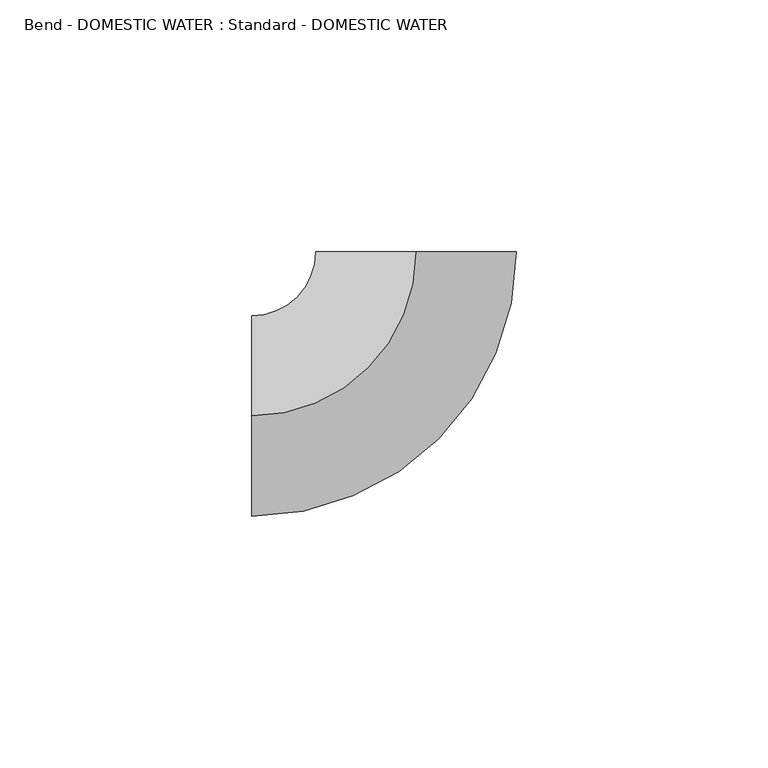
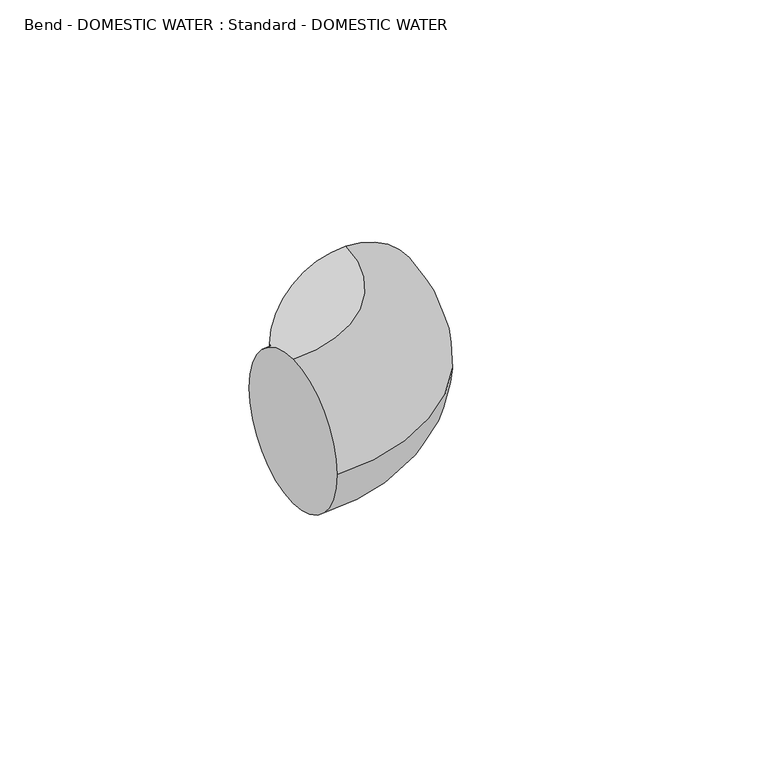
"""IFC4 building model written with IfcOpenShell, lengths in millimetres: pipe fitting geometry, Bend - DOMESTIC WATER : Standard - DOMESTIC WATER."""

import ifcopenshell
import ifcopenshell.guid

model = None  # the IFC model being written
_history = None  # IfcOwnerHistory: only IFC2X3 demands one
_inside = {}  # id of a spatial element -> (the spatial element, [elements in it])
_under = {}  # id of a project, library or spatial element -> (it, [spatial elements below it])
_declared = {}  # id of a project -> (the project, [libraries it declares])
_typed = {}  # id of a type object -> (the type object, [elements of that type])
_made_of = {}  # id of a material, layer set ... -> (it, [elements and type objects made of it])


def new_model(schema):
    """Start an empty IFC model of exactly this schema.

    Asked for "IFC4X3", IfcOpenShell would pick the latest addendum, in which some entities
    have other attributes; the version numbers below select the first issue.
    IFC2X3 requires an IfcOwnerHistory on every rooted entity: one is made here for all.
    """
    global model, _history
    if schema == "IFC4X3":
        model = ifcopenshell.file(schema_version=(4, 3, 0, 0))
    else:
        model = ifcopenshell.file(schema=schema)
    _inside.clear()
    _under.clear()
    _declared.clear()
    _typed.clear()
    _made_of.clear()
    _history = None
    if model.schema == "IFC2X3":
        org = make("IfcOrganization", Name="unknown")
        user = make(
            "IfcPersonAndOrganization",
            ThePerson=make("IfcPerson", FamilyName="unknown"),
            TheOrganization=org,
        )
        app = make(
            "IfcApplication",
            ApplicationDeveloper=org,
            Version="unknown",
            ApplicationFullName="unknown",
            ApplicationIdentifier="unknown",
        )
        _history = make(
            "IfcOwnerHistory",
            OwningUser=user,
            OwningApplication=app,
            ChangeAction="ADDED",
            CreationDate=0,
        )
    return model


def make(cls, **values):
    """One entity of the class cls with the attributes given. An attribute that is None is left unset."""
    return model.create_entity(
        cls, **{name: value for name, value in values.items() if value is not None}
    )


def rooted(cls, **values):
    """An entity with a GlobalId (a new one), such as an element, a storey or a relation."""
    return make(cls, GlobalId=ifcopenshell.guid.new(), OwnerHistory=_history, **values)


def si_unit(unit_type, name, prefix=None):
    """IfcSIUnit, for example si_unit("LENGTHUNIT", "METRE", prefix="MILLI")."""
    return make("IfcSIUnit", UnitType=unit_type, Prefix=prefix, Name=name)


def assignment(units):
    """IfcUnitAssignment: the units of a project."""
    return None if units is None else make("IfcUnitAssignment", Units=units)


def point(xyz):
    """IfcCartesianPoint."""
    return None if xyz is None else make("IfcCartesianPoint", Coordinates=xyz)


def direction(xyz):
    """IfcDirection."""
    return None if xyz is None else make("IfcDirection", DirectionRatios=xyz)


def frame(location, z_axis=None, x_axis=None):
    """IfcAxis2Placement3D, a coordinate frame: its origin and axes. An axis left out is left unset."""
    return make(
        "IfcAxis2Placement3D",
        Location=point(location),
        Axis=direction(z_axis),
        RefDirection=direction(x_axis),
    )


def origin():
    """The frame at (0, 0, 0) with its axes left unset."""
    return frame((0.0, 0.0, 0.0))


def place(relative_to, where):
    """IfcLocalPlacement: puts the frame where relative to a parent placement (None: the world)."""
    return make(
        "IfcLocalPlacement", PlacementRelTo=relative_to, RelativePlacement=where
    )


def context(
    kind, dimensions, precision=None, world=None, true_north=None, identifier=None
):
    """IfcGeometricRepresentationContext, for example the 3D "Model" context."""
    return make(
        "IfcGeometricRepresentationContext",
        ContextIdentifier=identifier,
        ContextType=kind,
        CoordinateSpaceDimension=dimensions,
        Precision=precision,
        WorldCoordinateSystem=world,
        TrueNorth=true_north,
    )


def project(units=None, contexts=None):
    """IfcProject with its units and contexts."""
    return rooted(
        "IfcProject",
        Name="project",
        RepresentationContexts=contexts,
        UnitsInContext=assignment(units),
    )


def spatial(cls, under=None, at=None, **own):
    """A site, building, storey or space (cls), placed at a placement, below another one or the project."""
    s = rooted(cls, ObjectPlacement=at, **own)
    if under is not None:
        _under.setdefault(under.id(), (under, []))[1].append(s)
    return s


def circle_curve(where, radius):
    """IfcCircle in the frame where."""
    return make("IfcCircle", Position=where, Radius=radius)


def ellipse_curve(where, semi_axis1, semi_axis2):
    """IfcEllipse in the frame where."""
    return make(
        "IfcEllipse", Position=where, SemiAxis1=semi_axis1, SemiAxis2=semi_axis2
    )


def trimmed(basis, trim1, trim2, sense, master):
    """IfcTrimmedCurve: the piece of a basis curve between two trims."""
    return make(
        "IfcTrimmedCurve",
        BasisCurve=basis,
        Trim1=trim1,
        Trim2=trim2,
        SenseAgreement=sense,
        MasterRepresentation=master,
    )


def shape(context_of_items, identifier, shape_type, items):
    """IfcShapeRepresentation: the items that make up one representation, for example the "Body"."""
    return make(
        "IfcShapeRepresentation",
        ContextOfItems=context_of_items,
        RepresentationIdentifier=identifier,
        RepresentationType=shape_type,
        Items=items,
    )


def source(mapping_origin, context_of_items, identifier, shape_type, items):
    """IfcRepresentationMap: a shape defined once, which mapped items show again and again."""
    return make(
        "IfcRepresentationMap",
        MappingOrigin=mapping_origin,
        MappedRepresentation=shape(context_of_items, identifier, shape_type, items),
    )


def transform(
    local_origin,
    x_axis=None,
    y_axis=None,
    z_axis=None,
    scale=None,
    scale2=None,
    scale3=None,
    uniform=True,
):
    """IfcCartesianTransformationOperator3D, or its non-uniform kind. x_axis, y_axis, z_axis: its Axis1, 2, 3."""
    if uniform:
        return make(
            "IfcCartesianTransformationOperator3D",
            Axis1=direction(x_axis),
            Axis2=direction(y_axis),
            LocalOrigin=point(local_origin),
            Scale=scale,
            Axis3=direction(z_axis),
        )
    return make(
        "IfcCartesianTransformationOperator3DnonUniform",
        Axis1=direction(x_axis),
        Axis2=direction(y_axis),
        LocalOrigin=point(local_origin),
        Scale=scale,
        Axis3=direction(z_axis),
        Scale2=scale2,
        Scale3=scale3,
    )


def mapped(mapping_source, mapping_target):
    """IfcMappedItem: shows the shape of a source again, moved by a transform."""
    return make(
        "IfcMappedItem", MappingSource=mapping_source, MappingTarget=mapping_target
    )


def made_of(thing, what):
    """Note that an element or type object is made of a material, layer set ...; save() writes the relation."""
    if what is not None:
        _made_of.setdefault(what.id(), (what, []))[1].append(thing)
    return thing


def element(
    cls,
    number,
    at=None,
    inside=None,
    cuts=None,
    type_object=None,
    material=None,
    context=None,
    identifier="Body",
    shape_type=None,
    held_by="IfcProductDefinitionShape",
    body=None,
    shapes=None,
    **own,
):
    """One element of the class cls, such as IfcWall. Its Tag is "e" and its number.

    at: its placement. inside: the storey or other place that contains it. cuts: it is an
    opening in that element (IfcRelVoidsElement). A single representation is given by context,
    identifier, shape_type and body (its items); several are given by shapes. held_by: the class
    of the entity that holds the representations. save() writes the other relations.
    """
    e = rooted(cls, Tag="e%d" % number, ObjectPlacement=at, **own)
    if body is not None:
        shapes = [shape(context, identifier, shape_type, body)]
    if shapes is not None:
        e.Representation = make(held_by, Representations=shapes)
    if inside is not None:
        _inside.setdefault(inside.id(), (inside, []))[1].append(e)
    if cuts is not None:
        rooted(
            "IfcRelVoidsElement", RelatingBuildingElement=cuts, RelatedOpeningElement=e
        )
    if type_object is not None:
        _typed.setdefault(type_object.id(), (type_object, []))[1].append(e)
    return made_of(e, material)


def aggregate(whole, parts):
    """IfcRelAggregates: a whole, such as a stair, and the parts it consists of."""
    return rooted("IfcRelAggregates", RelatingObject=whole, RelatedObjects=parts)


def save(model, path):
    """Write the relations noted so far, then the file.

    IfcRelAggregates (storeys below a building ...), IfcRelContainedInSpatialStructure (elements
    in a storey), IfcRelDefinesByType, IfcRelAssociatesMaterial and IfcRelDeclares: one each for
    every whole, place, type object, material and project.
    """
    for whole, parts in _under.values():
        aggregate(whole, parts)
    for where, things in _inside.values():
        rooted(
            "IfcRelContainedInSpatialStructure",
            RelatedElements=things,
            RelatingStructure=where,
        )
    for kind, things in _typed.values():
        rooted("IfcRelDefinesByType", RelatedObjects=things, RelatingType=kind)
    for what, things in _made_of.values():
        rooted("IfcRelAssociatesMaterial", RelatedObjects=things, RelatingMaterial=what)
    for by, libraries in _declared.values():
        rooted("IfcRelDeclares", RelatingContext=by, RelatedDefinitions=libraries)
    model.write(path)


def plane_surface(at):
    """IfcPlane: the flat surface through the origin of the frame at, square to its z axis."""
    return make("IfcPlane", Position=at)


def revolved_surface(curve, axis_point, axis_direction):
    """IfcSurfaceOfRevolution: the curve turned about the line through axis_point along axis_direction."""
    return make(
        "IfcSurfaceOfRevolution",
        SweptCurve=make("IfcArbitraryOpenProfileDef", ProfileType="CURVE", Curve=curve),
        AxisPosition=make("IfcAxis1Placement", Location=point(axis_point), Axis=direction(axis_direction)),
    )


def advanced_brep(points, edges, surfaces, faces):
    """IfcAdvancedBrep: a solid bounded by faces that lie on surfaces and meet in shared edges.

    An edge is (start, end): straight between two places in points (the first is 0);
    or (start, end, curve); or (start, end, curve, False) where it runs against its curve.
    A face is (place in surfaces, loops), or (place, loops, False) where it looks against
    its surface's normal. A loop lists edges by number (the first is 1), with a minus sign
    where the edge is run from its end to its start. The first loop is the outer one.
    """
    corners = [point(p) for p in points]
    vertices = [make("IfcVertexPoint", VertexGeometry=c) for c in corners]
    made = []
    for start, end, *more in edges:
        made.append(
            make(
                "IfcEdgeCurve",
                EdgeStart=vertices[start],
                EdgeEnd=vertices[end],
                EdgeGeometry=more[0] if more else make("IfcPolyline", Points=[corners[start], corners[end]]),
                SameSense=more[1] if len(more) > 1 else True,
            )
        )
    hull = []
    for where, loops, *sense in faces:
        bounds = []
        for j, loop in enumerate(loops):
            ring = [make("IfcOrientedEdge", EdgeElement=made[abs(k) - 1], Orientation=k > 0) for k in loop]
            bounds.append(
                make(
                    "IfcFaceOuterBound" if j == 0 else "IfcFaceBound",
                    Bound=make("IfcEdgeLoop", EdgeList=ring),
                    Orientation=True,
                )
            )
        hull.append(make("IfcAdvancedFace", Bounds=bounds, FaceSurface=surfaces[where], SameSense=sense[0] if sense else True))
    return make("IfcAdvancedBrep", Outer=make("IfcClosedShell", CfsFaces=hull))


def bend_domestic_water_standard_domestic_water_16d314a5(model_context):
    return source(origin(), model_context, "Body", "AdvancedBrep", [
        advanced_brep(
        [(-32.5755, 0.0, 19.8755), (-32.5755, 19.8755, 0.0), (-32.5755, 0.0, -19.8755), (-32.5755, -19.8755, 0.0), (0.0, 32.5755, 19.8755), (19.8755, 32.5755, 0.0), (0.0, 32.5755, -19.8755), (-19.8755, 32.5755, 0.0)],
        [
            (0, 1, circle_curve(frame((-32.5755, 0.0, 0.0), z_axis=(-1.0, 0.0, 0.0), x_axis=(0.0, 1.0, 0.0)), 19.8755)),
            (1, 2, circle_curve(frame((-32.5755, 0.0, 0.0), z_axis=(-1.0, 0.0, 0.0), x_axis=(0.0, 1.0, 0.0)), 19.8755)),
            (2, 3, circle_curve(frame((-32.5755, 0.0, 0.0), z_axis=(-1.0, 0.0, 0.0), x_axis=(0.0, 1.0, 0.0)), 19.8755)),
            (3, 0, circle_curve(frame((-32.5755, 0.0, 0.0), z_axis=(-1.0, 0.0, 0.0), x_axis=(0.0, 1.0, 0.0)), 19.8755)),
            (4, 5, circle_curve(frame((0.0, 32.5755, 0.0), z_axis=(0.0, 1.0, 0.0), x_axis=(-1.0, 0.0, 0.0)), 19.8755)),
            (5, 6, circle_curve(frame((0.0, 32.5755, 0.0), z_axis=(0.0, 1.0, 0.0), x_axis=(-1.0, 0.0, 0.0)), 19.8755)),
            (6, 7, circle_curve(frame((0.0, 32.5755, 0.0), z_axis=(0.0, 1.0, 0.0), x_axis=(-1.0, 0.0, 0.0)), 19.8755)),
            (7, 4, circle_curve(frame((0.0, 32.5755, 0.0), z_axis=(0.0, 1.0, 0.0), x_axis=(-1.0, 0.0, 0.0)), 19.8755)),
            (7, 1, circle_curve(frame((-32.5755, 32.5755, 0.0), z_axis=(0.0, 0.0, -1.0), x_axis=(0.0, -1.0, 0.0)), 12.7)),
            (0, 4, circle_curve(frame((-32.5755, 32.5755, 19.8755), z_axis=(0.0, 0.0, 1.0), x_axis=(0.0, -1.0, 0.0)), 32.5755)),
            (6, 2, circle_curve(frame((-32.5755, 32.5755, -19.8755), z_axis=(0.0, 0.0, -1.0), x_axis=(0.0, -1.0, 0.0)), 32.5755)),
            (5, 3, circle_curve(frame((-32.5755, 32.5755, 0.0), z_axis=(0.0, 0.0, -1.0), x_axis=(0.0, -1.0, 0.0)), 52.451)),
        ],
        [
            plane_surface(frame((-32.5755, 0.0, 0.0), z_axis=(-1.0, 0.0, 0.0), x_axis=(0.0, 0.0, 1.0))),
            plane_surface(frame((0.0, 32.5755, 0.0), z_axis=(0.0, 1.0, 0.0), x_axis=(0.0, 0.0, 1.0))),
            revolved_surface(trimmed(ellipse_curve(frame((-32.5755, 0.0, 0.0), z_axis=(-1.0, 0.0, 0.0), x_axis=(0.0, 1.0, 0.0)), 19.8755, 19.8755), [point((-32.5755, 0.0, 19.8755))], [point((-32.5755, 19.8755, 0.0))], True, "CARTESIAN"), (-32.5755, 32.5755, 0.0), (0.0, 0.0, 1.0)),
            revolved_surface(trimmed(ellipse_curve(frame((-32.5755, 0.0, 0.0), z_axis=(-1.0, 0.0, 0.0), x_axis=(0.0, 1.0, 0.0)), 19.8755, 19.8755), [point((-32.5755, 19.8755, 0.0))], [point((-32.5755, 0.0, -19.8755))], True, "CARTESIAN"), (-32.5755, 32.5755, 0.0), (0.0, 0.0, 1.0)),
            revolved_surface(trimmed(ellipse_curve(frame((-32.5755, 0.0, 0.0), z_axis=(-1.0, 0.0, 0.0), x_axis=(0.0, 1.0, 0.0)), 19.8755, 19.8755), [point((-32.5755, 0.0, -19.8755))], [point((-32.5755, -19.8755, 0.0))], True, "CARTESIAN"), (-32.5755, 32.5755, 0.0), (0.0, 0.0, 1.0)),
            revolved_surface(trimmed(ellipse_curve(frame((-32.5755, 0.0, 0.0), z_axis=(-1.0, 0.0, 0.0), x_axis=(0.0, 1.0, 0.0)), 19.8755, 19.8755), [point((-32.5755, -19.8755, 0.0))], [point((-32.5755, 0.0, 19.8755))], True, "CARTESIAN"), (-32.5755, 32.5755, 0.0), (0.0, 0.0, 1.0)),
        ],
        [
            (0, [[1, 2, 3, 4]]),
            (1, [[5, 6, 7, 8]]),
            (2, [[9, -1, 10, -8]]),
            (3, [[11, -2, -9, -7]]),
            (4, [[12, -3, -11, -6]]),
            (5, [[-10, -4, -12, -5]]),
        ],
    ),
        advanced_brep(
        [(-32.5755, 0.0, 19.8755), (-32.5755, 19.8755, 0.0), (-32.5755, 0.0, -19.8755), (-32.5755, -19.8755, 0.0), (0.0, 32.5755, 19.8755), (19.8755, 32.5755, 0.0), (0.0, 32.5755, -19.8755), (-19.8755, 32.5755, 0.0)],
        [
            (0, 1, circle_curve(frame((-32.5755, 0.0, 0.0), z_axis=(-1.0, 0.0, 0.0), x_axis=(0.0, 1.0, 0.0)), 19.8755)),
            (1, 2, circle_curve(frame((-32.5755, 0.0, 0.0), z_axis=(-1.0, 0.0, 0.0), x_axis=(0.0, 1.0, 0.0)), 19.8755)),
            (2, 3, circle_curve(frame((-32.5755, 0.0, 0.0), z_axis=(-1.0, 0.0, 0.0), x_axis=(0.0, 1.0, 0.0)), 19.8755)),
            (3, 0, circle_curve(frame((-32.5755, 0.0, 0.0), z_axis=(-1.0, 0.0, 0.0), x_axis=(0.0, 1.0, 0.0)), 19.8755)),
            (4, 5, circle_curve(frame((0.0, 32.5755, 0.0), z_axis=(0.0, 1.0, 0.0), x_axis=(-1.0, 0.0, 0.0)), 19.8755)),
            (5, 6, circle_curve(frame((0.0, 32.5755, 0.0), z_axis=(0.0, 1.0, 0.0), x_axis=(-1.0, 0.0, 0.0)), 19.8755)),
            (6, 7, circle_curve(frame((0.0, 32.5755, 0.0), z_axis=(0.0, 1.0, 0.0), x_axis=(-1.0, 0.0, 0.0)), 19.8755)),
            (7, 4, circle_curve(frame((0.0, 32.5755, 0.0), z_axis=(0.0, 1.0, 0.0), x_axis=(-1.0, 0.0, 0.0)), 19.8755)),
            (7, 1, circle_curve(frame((-32.5755, 32.5755, 0.0), z_axis=(0.0, 0.0, -1.0), x_axis=(0.0, -1.0, 0.0)), 12.7)),
            (0, 4, circle_curve(frame((-32.5755, 32.5755, 19.8755), z_axis=(0.0, 0.0, 1.0), x_axis=(0.0, -1.0, 0.0)), 32.5755)),
            (6, 2, circle_curve(frame((-32.5755, 32.5755, -19.8755), z_axis=(0.0, 0.0, -1.0), x_axis=(0.0, -1.0, 0.0)), 32.5755)),
            (5, 3, circle_curve(frame((-32.5755, 32.5755, 0.0), z_axis=(0.0, 0.0, -1.0), x_axis=(0.0, -1.0, 0.0)), 52.451)),
        ],
        [
            plane_surface(frame((-32.5755, 0.0, 0.0), z_axis=(-1.0, 0.0, 0.0), x_axis=(0.0, 0.0, 1.0))),
            plane_surface(frame((0.0, 32.5755, 0.0), z_axis=(0.0, 1.0, 0.0), x_axis=(0.0, 0.0, 1.0))),
            revolved_surface(trimmed(ellipse_curve(frame((-32.5755, 0.0, 0.0), z_axis=(-1.0, 0.0, 0.0), x_axis=(0.0, 1.0, 0.0)), 19.8755, 19.8755), [point((-32.5755, 0.0, 19.8755))], [point((-32.5755, 19.8755, 0.0))], True, "CARTESIAN"), (-32.5755, 32.5755, 0.0), (0.0, 0.0, 1.0)),
            revolved_surface(trimmed(ellipse_curve(frame((-32.5755, 0.0, 0.0), z_axis=(-1.0, 0.0, 0.0), x_axis=(0.0, 1.0, 0.0)), 19.8755, 19.8755), [point((-32.5755, 19.8755, 0.0))], [point((-32.5755, 0.0, -19.8755))], True, "CARTESIAN"), (-32.5755, 32.5755, 0.0), (0.0, 0.0, 1.0)),
            revolved_surface(trimmed(ellipse_curve(frame((-32.5755, 0.0, 0.0), z_axis=(-1.0, 0.0, 0.0), x_axis=(0.0, 1.0, 0.0)), 19.8755, 19.8755), [point((-32.5755, 0.0, -19.8755))], [point((-32.5755, -19.8755, 0.0))], True, "CARTESIAN"), (-32.5755, 32.5755, 0.0), (0.0, 0.0, 1.0)),
            revolved_surface(trimmed(ellipse_curve(frame((-32.5755, 0.0, 0.0), z_axis=(-1.0, 0.0, 0.0), x_axis=(0.0, 1.0, 0.0)), 19.8755, 19.8755), [point((-32.5755, -19.8755, 0.0))], [point((-32.5755, 0.0, 19.8755))], True, "CARTESIAN"), (-32.5755, 32.5755, 0.0), (0.0, 0.0, 1.0)),
        ],
        [
            (0, [[1, 2, 3, 4]]),
            (1, [[5, 6, 7, 8]]),
            (2, [[9, -1, 10, -8]]),
            (3, [[11, -2, -9, -7]]),
            (4, [[12, -3, -11, -6]]),
            (5, [[-10, -4, -12, -5]]),
        ],
    ),
    ])


if __name__ == "__main__":
    model = new_model("IFC4")
    model_context = context("Model", 3, world=origin())
    ifc_project = project(units=[si_unit("LENGTHUNIT", "METRE", prefix="MILLI")], contexts=[model_context])
    site = spatial("IfcSite", under=ifc_project)
    building = spatial("IfcBuilding", under=site)
    placement = place(None, origin())
    bend_domestic_water_standard_domestic_water_shape = bend_domestic_water_standard_domestic_water_16d314a5(model_context)
    element("IfcPipeFitting", 1, ObjectType="Bend - DOMESTIC WATER : Standard - DOMESTIC WATER", at=placement, inside=building, context=model_context, shape_type="MappedRepresentation", body=[
        mapped(bend_domestic_water_standard_domestic_water_shape, transform((0.0, 0.0, 0.0), x_axis=(1.0, 0.0, 0.0), y_axis=(0.0, 1.0, 0.0), z_axis=(0.0, 0.0, 1.0))),
    ])
    save(model, "model.ifc")
